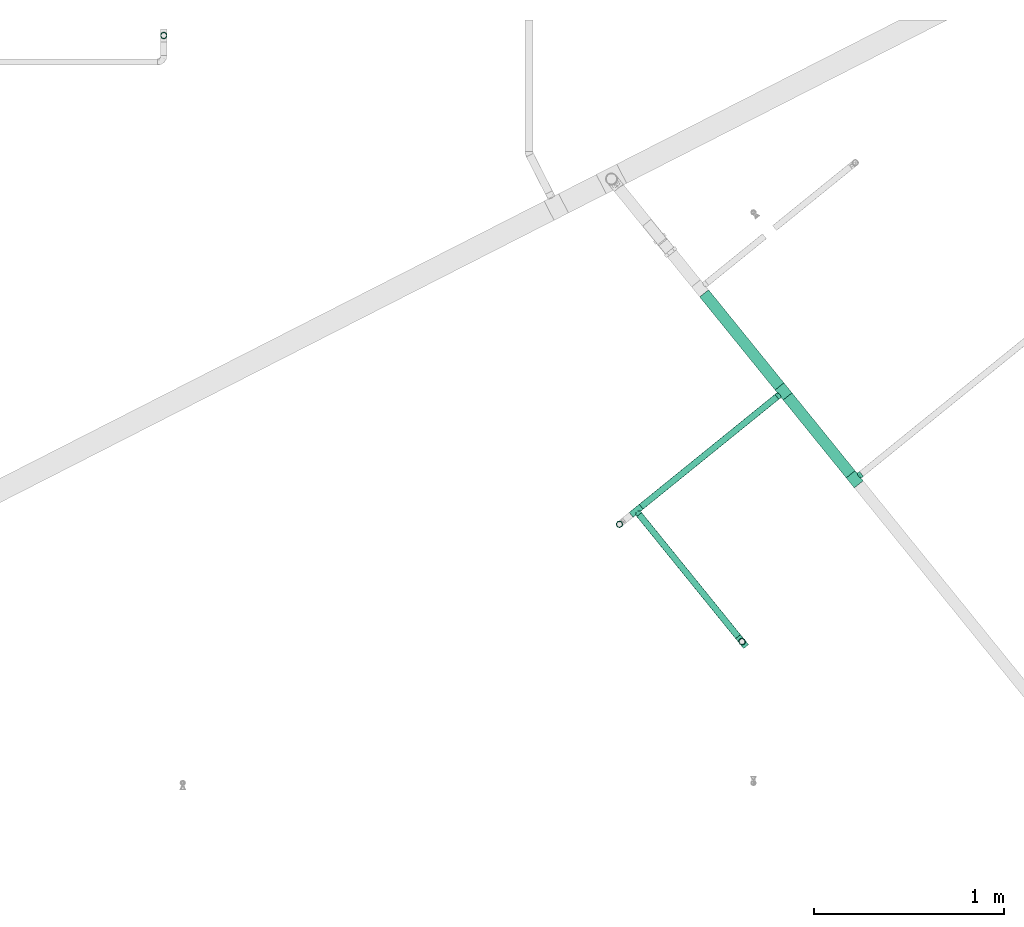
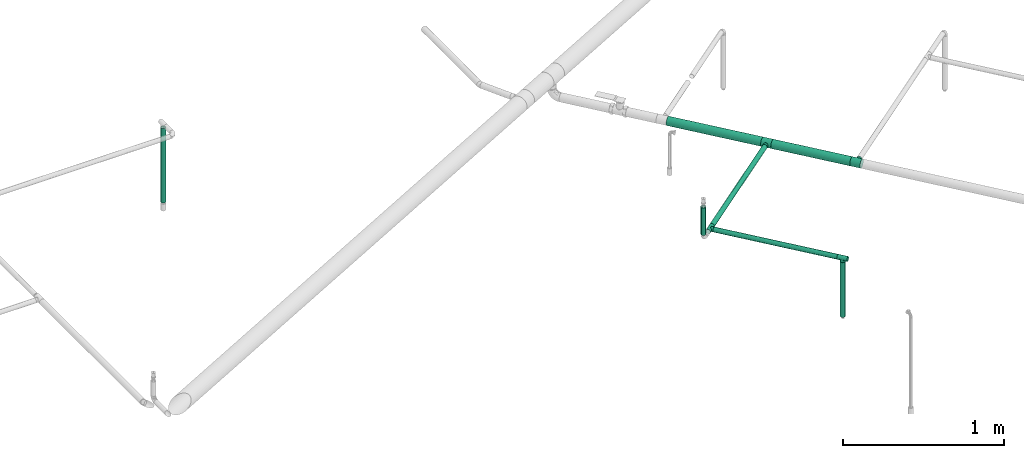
# One storey, part 18 of 94: 7 flow segments, 4 flow fittings.
"""IFC2X3 building model written with IfcOpenShell, lengths in millimetres."""

from ifc_helpers import new_model, entity, si_unit, converted_unit, derived_unit, direction, frame, origin_with_axes, origin_2d_with_axis, place, context, subcontext, project, spatial, hollow_circle, extrude, open_shell, surface_model, source, transform, mapped, type_object, element, save


model = new_model("IFC2X3")

# Units and contexts
model_context = context("Model", 3, precision=0.01, world=frame((0.0, 4.29681676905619e-09, 0.0)), true_north=direction((4.01073788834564e-13, 1.0)))
plan_context = context("Plan", 3, precision=0.01, world=frame((0.0, 4.29681676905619e-09, 0.0)), true_north=direction((4.01073788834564e-13, 1.0)))
body_context = subcontext(model_context, "Body", "Model", "MODEL_VIEW")
ifc_project = project(units=[converted_unit("PLANEANGLEUNIT", "DEGREE", entity("IfcPositiveLengthMeasure", 0.0174532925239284), si_unit("PLANEANGLEUNIT", "RADIAN"), dimensions=[0, 0, 0, 0, 0, 0, 0]), si_unit("AREAUNIT", "SQUARE_METRE"), si_unit("LENGTHUNIT", "METRE", prefix="MILLI"), si_unit("MASSUNIT", "GRAM", prefix="KILO"), si_unit("POWERUNIT", "WATT"), si_unit("PRESSUREUNIT", "PASCAL", prefix="KILO"), si_unit("FORCEUNIT", "NEWTON", prefix="KILO"), si_unit("ELECTRICVOLTAGEUNIT", "VOLT"), si_unit("ELECTRICCURRENTUNIT", "AMPERE"), si_unit("THERMODYNAMICTEMPERATUREUNIT", "DEGREE_CELSIUS"), si_unit("TIMEUNIT", "SECOND"), si_unit("VOLUMEUNIT", "CUBIC_METRE"), derived_unit("LINEARVELOCITYUNIT", [(si_unit("LENGTHUNIT", "METRE"), 1), (si_unit("TIMEUNIT", "SECOND"), -1)]), derived_unit("VOLUMETRICFLOWRATEUNIT", [(si_unit("VOLUMEUNIT", "CUBIC_METRE"), 1), (si_unit("TIMEUNIT", "SECOND"), -1)]), derived_unit("THERMALTRANSMITTANCEUNIT", [(si_unit("POWERUNIT", "WATT"), 1), (si_unit("THERMODYNAMICTEMPERATUREUNIT", "KELVIN"), -1), (si_unit("AREAUNIT", "SQUARE_METRE"), -1)]), derived_unit("SOUNDPRESSUREUNIT", [(si_unit("PRESSUREUNIT", "PASCAL"), 1)])], contexts=[model_context, plan_context])

# Site, building, storey
site_placement = place(None, frame((0.0, -4.29681676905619e-09, 0.0), z_axis=(0.0, 0.0, 1.0), x_axis=(1.0, 0.0, 0.0)))
site = spatial("IfcSite", under=ifc_project, at=site_placement, CompositionType="ELEMENT")
building_placement = place(site_placement, frame((0.0, 4.29681676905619e-09, 0.0), z_axis=(0.0, 0.0, 1.0), x_axis=(1.0, 0.0, 0.0)))
building = spatial("IfcBuilding", under=site, at=building_placement, Name="mc-building", CompositionType="ELEMENT")
storey_placement = place(building_placement, frame((0.0, 0.0, 210900.0), z_axis=(0.0, 0.0, 1.0), x_axis=(1.0, 0.0, 0.0)))
storey = spatial("IfcBuildingStorey", under=building, at=storey_placement, Name="Nivå F", CompositionType="ELEMENT", Elevation=210900.0)

# Flow fittings
pipe_fitting_type = type_object("IfcPipeFittingType", Name="magi_pipe_fe_tee_centric_90_NOR", PredefinedType="JUNCTION")
shared_shape_1 = source(origin_with_axes(), body_context, "Body", "SurfaceModel", [
    surface_model("IfcShellBasedSurfaceModel", [(-33.8, 4.37404, -16.32415), (-33.8, 0.0, -16.9), (-33.8, 16.32415, -4.37404), (-33.8, 8.45, -14.63583), (-33.8, 11.9501, -11.9501), (-33.8, 14.63583, -8.45), (-33.8, -16.9, 0.0), (-33.8, -11.9501, -11.9501), (-33.8, -14.63583, -8.45), (-33.8, -8.45, -14.63583), (-33.8, -4.37404, -16.32415), (-33.8, -16.32415, -4.37404), (-33.8, 14.63583, 8.45), (-33.8, 16.32415, 4.37404), (-33.8, -8.45, 14.63583), (-33.8, 8.45, 14.63583), (-33.8, 11.9501, 11.9501), (-33.8, 4.37404, 16.32415), (-33.8, 0.0, 16.9), (-33.8, -11.9501, 11.9501), (-33.8, -14.63583, 8.45), (-33.8, -16.32415, 4.37404), (-33.8, -4.37404, 16.32415), (-33.8, 16.9, 0.0), (33.8, 4.37404, -16.32415), (33.8, -16.9, 0.0), (33.8, 0.0, -16.9), (33.8, 14.63583, -8.45), (33.8, 8.45, -14.63583), (33.8, 16.32415, -4.37404), (33.8, 11.9501, -11.9501), (33.8, -16.32415, 4.37404), (33.8, -8.45, -14.63583), (33.8, -4.37404, -16.32415), (33.8, -11.9501, -11.9501), (33.8, -14.63583, -8.45), (33.8, -16.32415, -4.37404), (33.8, 16.32415, 4.37404), (33.8, 8.45, 14.63583), (33.8, 14.63583, 8.45), (33.8, 11.9501, 11.9501), (33.8, -8.45, 14.63583), (33.8, 4.37404, 16.32415), (33.8, -14.63583, 8.45), (33.8, -11.9501, 11.9501), (33.8, 0.0, 16.9), (33.8, -4.37404, 16.32415), (33.8, 16.9, 0.0), (16.28698, -16.28698, 4.51047), (16.9, -16.9, 0.0), (14.62704, -14.62704, 8.4652), (9.47213, -9.47213, 13.99602), (12.26343, -12.26343, 11.62834), (-16.9, -16.9, 0.0), (-16.28698, -16.28698, 4.51047), (-14.62704, -14.62704, 8.4652), (-12.26343, -12.26343, 11.62834), (-9.47213, -9.47213, 13.99602), (-6.42894, -6.42894, 15.62942), (6.42894, -6.42894, 15.62942), (3.24522, -3.24522, 16.58549), (0.0, 0.0, 16.9), (-3.24522, -3.24522, 16.58549), (3.24522, -3.24522, -16.58549), (0.0, 0.0, -16.9), (-3.24522, -3.24522, -16.58549), (-6.42894, -6.42894, -15.62942), (6.42894, -6.42894, -15.62942), (9.47213, -9.47213, -13.99602), (12.26343, -12.26343, -11.62834), (14.62704, -14.62704, -8.4652), (16.28698, -16.28698, -4.51047), (-9.47213, -9.47213, -13.99602), (-12.26343, -12.26343, -11.62834), (-16.28698, -16.28698, -4.51047), (-14.62704, -14.62704, -8.4652), (4.37404, -25.35, -16.32415), (-16.9, -25.35, 0.0), (0.0, -25.35, -16.9), (14.63583, -25.35, -8.45), (8.45, -25.35, -14.63583), (16.32415, -25.35, -4.37404), (11.9501, -25.35, -11.9501), (-11.9501, -25.35, -11.9501), (-8.45, -25.35, -14.63583), (-4.37404, -25.35, -16.32415), (-14.63583, -25.35, -8.45), (-16.32415, -25.35, -4.37404), (16.9, -25.35, 0.0), (8.45, -25.35, 14.63583), (16.32415, -25.35, 4.37404), (14.63583, -25.35, 8.45), (-8.45, -25.35, 14.63583), (11.9501, -25.35, 11.9501), (4.37404, -25.35, 16.32415), (-16.32415, -25.35, 4.37404), (-11.9501, -25.35, 11.9501), (-14.63583, -25.35, 8.45), (0.0, -25.35, 16.9), (-4.37404, -25.35, 16.32415)], [open_shell([[[0, 1, 2]], [[3, 0, 4]], [[0, 2, 5]], [[4, 0, 5]], [[6, 2, 1]], [[7, 8, 9]], [[1, 10, 9]], [[11, 6, 8]], [[1, 9, 8]], [[1, 8, 6]], [[6, 12, 2]], [[12, 13, 2]], [[14, 12, 6]], [[12, 14, 15]], [[16, 12, 15]], [[17, 15, 18]], [[19, 14, 20]], [[21, 20, 14]], [[22, 18, 14]], [[14, 6, 21]], [[14, 18, 15]], [[23, 2, 13]], [[24, 25, 26]], [[27, 24, 28]], [[27, 29, 24]], [[27, 28, 30]], [[31, 25, 24]], [[26, 32, 33]], [[26, 34, 32]], [[35, 25, 36]], [[35, 34, 26]], [[25, 35, 26]], [[24, 29, 31]], [[29, 37, 38]], [[38, 37, 39]], [[38, 31, 29]], [[38, 39, 40]], [[41, 38, 42]], [[43, 41, 44]], [[41, 43, 31]], [[41, 45, 46]], [[41, 31, 38]], [[42, 45, 41]], [[29, 47, 37]], [[31, 43, 48]], [[25, 31, 49]], [[49, 31, 48]], [[43, 50, 48]], [[44, 41, 51]], [[50, 43, 52]], [[51, 52, 44]], [[52, 43, 44]], [[53, 54, 21]], [[53, 21, 6]], [[21, 54, 20]], [[54, 55, 20]], [[56, 57, 19]], [[19, 20, 56]], [[19, 57, 14]], [[56, 20, 55]], [[14, 57, 58]], [[51, 41, 59]], [[60, 45, 61]], [[59, 46, 60]], [[46, 59, 41]], [[60, 46, 45]], [[61, 45, 42]], [[39, 37, 13]], [[16, 38, 40]], [[12, 40, 39]], [[42, 38, 15]], [[23, 37, 47]], [[62, 61, 18]], [[62, 22, 58]], [[22, 62, 18]], [[58, 22, 14]], [[61, 17, 18]], [[42, 17, 61]], [[15, 17, 42]], [[15, 38, 16]], [[12, 16, 40]], [[13, 12, 39]], [[37, 23, 13]], [[5, 27, 30]], [[23, 47, 29]], [[30, 28, 3]], [[27, 2, 29]], [[26, 33, 63]], [[26, 64, 24]], [[64, 26, 63]], [[28, 24, 0]], [[64, 0, 24]], [[4, 30, 3]], [[2, 27, 5]], [[5, 30, 4]], [[2, 23, 29]], [[65, 66, 10]], [[1, 0, 64]], [[1, 65, 10]], [[66, 9, 10]], [[0, 3, 28]], [[1, 64, 65]], [[63, 33, 67]], [[32, 34, 68]], [[69, 68, 34]], [[35, 70, 69]], [[69, 34, 35]], [[32, 68, 67]], [[36, 25, 49]], [[36, 71, 35]], [[71, 36, 49]], [[35, 71, 70]], [[72, 9, 66]], [[72, 7, 9]], [[7, 72, 73]], [[7, 73, 8]], [[74, 53, 11]], [[75, 74, 8]], [[74, 11, 8]], [[11, 53, 6]], [[75, 8, 73]], [[32, 67, 33]], [[76, 77, 78]], [[79, 76, 80]], [[79, 81, 76]], [[79, 80, 82]], [[77, 76, 81]], [[78, 83, 84]], [[84, 85, 78]], [[86, 77, 87]], [[83, 78, 86]], [[77, 86, 78]], [[81, 88, 77]], [[89, 88, 90]], [[89, 90, 91]], [[92, 77, 89]], [[89, 91, 93]], [[92, 89, 94]], [[95, 96, 97]], [[96, 95, 92]], [[92, 98, 99]], [[95, 77, 92]], [[94, 98, 92]], [[89, 77, 88]], [[77, 95, 53]], [[54, 53, 95]], [[97, 96, 56]], [[96, 92, 57]], [[95, 97, 54]], [[58, 92, 99]], [[55, 54, 97]], [[56, 55, 97]], [[58, 57, 92]], [[98, 61, 62]], [[58, 99, 62]], [[56, 96, 57]], [[62, 99, 98]], [[94, 60, 98]], [[89, 59, 94]], [[91, 90, 48]], [[52, 93, 91]], [[93, 51, 89]], [[49, 90, 88]], [[59, 60, 94]], [[51, 59, 89]], [[49, 48, 90]], [[50, 52, 91]], [[48, 50, 91]], [[51, 93, 52]], [[98, 60, 61]], [[88, 81, 49]], [[71, 49, 81]], [[79, 82, 69]], [[82, 80, 68]], [[81, 79, 71]], [[67, 80, 76]], [[70, 71, 79]], [[69, 70, 79]], [[67, 68, 80]], [[78, 64, 63]], [[67, 76, 63]], [[69, 82, 68]], [[63, 76, 78]], [[85, 65, 78]], [[84, 66, 85]], [[86, 87, 74]], [[86, 73, 83]], [[72, 84, 83]], [[53, 87, 77]], [[66, 65, 85]], [[72, 66, 84]], [[53, 74, 87]], [[75, 73, 86]], [[74, 75, 86]], [[72, 83, 73]], [[78, 65, 64]]])]),
])
for number, where, z_axis, x_axis, name in (
    (1, (724383.54109, 443631.34867, 3500.0), (0.0, 0.0, 1.0), (0.777146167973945, 0.629320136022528, 0.0), "magi_pipe_fe_tee_centric_90_NOR"),
    (2, (724940.47836, 442943.58842, 3500.0), (-0.777146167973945, -0.629320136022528, 0.0), (0.629320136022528, -0.777146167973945, 0.0), "magi_pipe_fe_tee_centric_90_NOR"),
):
    element("IfcFlowFitting", number, at=place(storey_placement, frame(where, z_axis=z_axis, x_axis=x_axis)), inside=storey, type_object=pipe_fitting_type, Name=name, context=body_context, shape_type="MappedRepresentation", body=[
        mapped(shared_shape_1, transform((0.0, 0.0, 0.0), scale=1.0)),
    ])
shared_shape_2 = source(origin_with_axes(), body_context, "Body", "SurfaceModel", [
    surface_model("IfcShellBasedSurfaceModel", [(-33.8, 15.1, -26.15397), (-33.8, 7.81634, -29.17096), (-33.8, 0.0, -30.2), (-33.8, 29.17096, -7.81634), (-33.8, 26.15397, -15.1), (-33.8, 21.35462, -21.35462), (-33.8, 30.2, 0.0), (-33.8, -30.2, 0.0), (-33.8, -15.1, -26.15397), (-33.8, -21.35462, -21.35462), (-33.8, -7.81634, -29.17096), (-33.8, -26.15397, -15.1), (-33.8, -29.17096, -7.81634), (-33.8, 26.15397, 15.1), (-33.8, 29.17096, 7.81634), (-33.8, 15.1, 26.15397), (-33.8, -21.35462, 21.35462), (-33.8, 21.35462, 21.35462), (-33.8, 7.81634, 29.17096), (-33.8, -29.17096, 7.81634), (-33.8, -26.15397, 15.1), (-33.8, -7.81634, 29.17096), (-33.8, 0.0, 30.2), (-33.8, -15.1, 26.15397), (33.8, 29.17096, -7.81634), (33.8, 0.0, -30.2), (33.8, 7.81634, -29.17096), (33.8, 21.35462, -21.35462), (33.8, 15.1, -26.15397), (33.8, 26.15397, -15.1), (33.8, -30.2, 0.0), (33.8, -7.81634, -29.17096), (33.8, -21.35462, -21.35462), (33.8, -15.1, -26.15397), (33.8, -29.17096, -7.81634), (33.8, -26.15397, -15.1), (33.8, 30.2, 0.0), (33.8, 29.17096, 7.81634), (33.8, 26.15397, 15.1), (33.8, -29.17096, 7.81634), (33.8, 15.1, 26.15397), (33.8, 7.81634, 29.17096), (33.8, 21.35462, 21.35462), (33.8, -21.35462, 21.35462), (33.8, -26.15397, 15.1), (33.8, -15.1, 26.15397), (33.8, 0.0, 30.2), (33.8, -7.81634, 29.17096), (33.8, -29.68548, 3.90817), (15.846, -29.62306, 5.87488), (16.373, -29.91153, 2.93744), (12.91037, -28.16217, 10.90561), (2.99213, -25.2068, 16.63301), (16.9, -30.2, 0.0), (33.8, -27.66246, 11.45817), (8.50854, -26.43531, 14.60187), (-8.51006, -26.43579, 14.60099), (-33.8, -27.66246, 11.45817), (-12.91447, -28.16405, 10.90075), (-15.84655, -29.62335, 5.87341), (-33.8, -29.68548, 3.90817), (-16.37327, -29.91168, 2.93671), (-16.9, -30.2, 0.0), (-2.99705, -25.20739, 16.63213), (2.99213, -25.2068, -16.63301), (-16.37327, -29.91168, -2.93671), (8.50854, -26.43531, -14.60187), (33.8, -27.66246, -11.45817), (16.373, -29.91153, -2.93744), (-33.8, -29.68548, -3.90817), (-15.84655, -29.62335, -5.87341), (15.846, -29.62306, -5.87488), (12.91037, -28.16217, -10.90561), (33.8, -29.68548, -3.90817), (-2.99705, -25.20739, -16.63213), (-8.51006, -26.43579, -14.60099), (-12.91447, -28.16405, -10.90075), (-33.8, -27.66246, -11.45817), (4.37404, -45.3, -16.32415), (-16.9, -45.3, 0.0), (0.0, -45.3, -16.9), (14.63583, -45.3, -8.45), (8.45, -45.3, -14.63583), (16.32415, -45.3, -4.37404), (11.9501, -45.3, -11.9501), (-11.9501, -45.3, -11.9501), (-8.45, -45.3, -14.63583), (-4.37404, -45.3, -16.32415), (-14.63583, -45.3, -8.45), (-16.32415, -45.3, -4.37404), (16.9, -45.3, 0.0), (8.45, -45.3, 14.63583), (16.32415, -45.3, 4.37404), (14.63583, -45.3, 8.45), (-8.45, -45.3, 14.63583), (11.9501, -45.3, 11.9501), (4.37404, -45.3, 16.32415), (-16.32415, -45.3, 4.37404), (-11.9501, -45.3, 11.9501), (-14.63583, -45.3, 8.45), (0.0, -45.3, 16.9), (-4.37404, -45.3, 16.32415), (-5.75355, -25.82159, 15.61656), (-0.00246, -25.20709, 16.63257), (5.75034, -25.82105, 15.61744), (5.75034, -25.82105, -15.61744), (-0.00246, -25.20709, -16.63257), (-5.75355, -25.82159, -15.61656)], [open_shell([[[0, 1, 2]], [[3, 0, 2]], [[0, 3, 4]], [[5, 0, 4]], [[6, 2, 7]], [[8, 9, 10]], [[9, 2, 10]], [[11, 12, 9]], [[7, 9, 12]], [[9, 7, 2]], [[6, 3, 2]], [[13, 14, 6]], [[7, 15, 13]], [[7, 16, 15]], [[17, 13, 15]], [[18, 15, 16]], [[19, 20, 7]], [[7, 20, 16]], [[21, 22, 23]], [[16, 23, 22]], [[16, 22, 18]], [[7, 13, 6]], [[24, 25, 26]], [[27, 26, 28]], [[29, 24, 26]], [[29, 26, 27]], [[25, 24, 30]], [[31, 32, 33]], [[32, 31, 34]], [[32, 34, 35]], [[34, 31, 30]], [[31, 25, 30]], [[24, 36, 30]], [[36, 37, 38]], [[39, 36, 38]], [[40, 41, 38]], [[40, 38, 42]], [[43, 38, 41]], [[39, 43, 44]], [[39, 38, 43]], [[45, 46, 47]], [[46, 45, 43]], [[41, 46, 43]], [[36, 39, 30]], [[48, 39, 49]], [[30, 48, 50]], [[39, 51, 49]], [[44, 43, 52]], [[30, 50, 53]], [[51, 54, 55]], [[52, 55, 44]], [[48, 49, 50]], [[43, 16, 52]], [[55, 54, 44]], [[56, 57, 58]], [[59, 60, 61]], [[62, 61, 7]], [[59, 58, 19]], [[56, 63, 20]], [[51, 39, 54]], [[20, 57, 56]], [[20, 63, 16]], [[58, 57, 19]], [[63, 52, 16]], [[7, 61, 60]], [[59, 19, 60]], [[43, 23, 16]], [[22, 47, 46]], [[21, 45, 47]], [[18, 46, 41]], [[38, 37, 14]], [[17, 40, 42]], [[13, 42, 38]], [[41, 40, 15]], [[6, 37, 36]], [[23, 45, 21]], [[21, 47, 22]], [[18, 22, 46]], [[41, 15, 18]], [[15, 40, 17]], [[13, 17, 42]], [[14, 13, 38]], [[37, 6, 14]], [[45, 23, 43]], [[4, 24, 29]], [[3, 36, 24]], [[5, 29, 27]], [[25, 31, 10]], [[1, 28, 26]], [[2, 26, 25]], [[27, 28, 0]], [[8, 31, 33]], [[6, 36, 3]], [[3, 24, 4]], [[5, 4, 29]], [[27, 0, 5]], [[0, 28, 1]], [[2, 1, 26]], [[10, 2, 25]], [[31, 8, 10]], [[33, 9, 8]], [[32, 35, 64]], [[7, 65, 62]], [[66, 64, 35]], [[67, 66, 35]], [[32, 64, 9]], [[53, 68, 30]], [[69, 70, 65]], [[71, 72, 34]], [[71, 73, 68]], [[66, 67, 72]], [[34, 72, 67]], [[74, 75, 11]], [[76, 12, 77]], [[11, 9, 74]], [[76, 77, 75]], [[74, 9, 64]], [[76, 70, 12]], [[71, 34, 73]], [[70, 69, 12]], [[65, 7, 69]], [[30, 68, 73]], [[77, 11, 75]], [[32, 9, 33]], [[78, 79, 80]], [[81, 78, 82]], [[81, 83, 78]], [[81, 82, 84]], [[79, 78, 83]], [[80, 85, 86]], [[86, 87, 80]], [[88, 79, 89]], [[85, 80, 88]], [[79, 88, 80]], [[83, 90, 79]], [[91, 90, 92]], [[91, 92, 93]], [[94, 79, 91]], [[91, 93, 95]], [[94, 91, 96]], [[97, 98, 99]], [[98, 97, 94]], [[94, 100, 101]], [[97, 79, 94]], [[96, 100, 94]], [[91, 79, 90]], [[97, 61, 79]], [[58, 99, 98]], [[97, 99, 59]], [[98, 94, 56]], [[61, 62, 79]], [[59, 99, 58]], [[101, 63, 102]], [[56, 58, 98]], [[100, 52, 103]], [[91, 104, 96]], [[100, 96, 52]], [[50, 49, 92]], [[50, 90, 53]], [[104, 91, 55]], [[102, 94, 101]], [[102, 56, 94]], [[100, 63, 101]], [[97, 59, 61]], [[55, 91, 95]], [[95, 51, 55]], [[52, 96, 104]], [[92, 49, 93]], [[90, 50, 92]], [[93, 49, 51]], [[93, 51, 95]], [[103, 63, 100]], [[83, 68, 90]], [[72, 81, 84]], [[83, 81, 71]], [[84, 82, 66]], [[68, 53, 90]], [[71, 81, 72]], [[78, 64, 105]], [[66, 72, 84]], [[80, 74, 106]], [[86, 107, 87]], [[65, 70, 89]], [[105, 82, 78]], [[105, 66, 82]], [[75, 86, 85]], [[83, 71, 68]], [[70, 88, 89]], [[65, 79, 62]], [[85, 88, 76]], [[80, 64, 78]], [[87, 107, 74]], [[74, 80, 87]], [[75, 107, 86]], [[75, 85, 76]], [[76, 88, 70]], [[79, 65, 89]], [[106, 64, 80]]])]),
])
for number, where, z_axis, x_axis, name in (
    (3, (725532.42552, 443796.87082, 3500.0), (0.0, 0.0, 1.0), (-0.629320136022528, 0.777146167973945, 0.0), "magi_pipe_fe_tee_centric_90_NOR"),
    (4, (725158.3691, 444258.79202, 3500.0), (0.0, 0.0, -1.0), (-0.629320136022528, 0.777146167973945, 0.0), "magi_pipe_fe_tee_centric_90_NOR"),
):
    element("IfcFlowFitting", number, at=place(storey_placement, frame(where, z_axis=z_axis, x_axis=x_axis)), inside=storey, type_object=pipe_fitting_type, Name=name, context=body_context, shape_type="MappedRepresentation", body=[
        mapped(shared_shape_2, transform((0.0, 0.0, 0.0), scale=1.0)),
    ])

# Flow segments
pipe_segment_type = type_object("IfcPipeSegmentType", Name="Stålrør normaltykke", PredefinedType="RIGIDSEGMENT")
shared_shape_3 = source(origin_with_axes(), body_context, "Body", "SweptSolid", [
    extrude(hollow_circle(Radius=30.1, WallThickness=2.0, at=origin_2d_with_axis()), frame((0.0, 0.0, 0.0), z_axis=(1.0, 0.0, 0.0), x_axis=(0.0, 1.0, 0.0)), (0.0, 0.0, 1.0), 526.8),
])
flow_segment_1_placement = place(storey_placement, frame((725179.64013, 444232.52449, 3500.0), z_axis=(0.0, 0.0, 1.0), x_axis=(0.629320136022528, -0.777146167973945, 0.0)))
element("IfcFlowSegment", 5, at=flow_segment_1_placement, inside=storey, type_object=pipe_segment_type, Name="Stålrør normaltykke", context=body_context, shape_type="MappedRepresentation", body=[
    mapped(shared_shape_3, transform((0.0, 0.0, 0.0), scale=1.0)),
])
shared_shape_4 = source(origin_with_axes(), body_context, "Body", "SweptSolid", [
    extrude(hollow_circle(Radius=30.1, WallThickness=2.0, at=origin_2d_with_axis()), frame((0.0, 0.0, 0.0), z_axis=(1.0, 0.0, 0.0), x_axis=(0.0, 1.0, 0.0)), (0.0, 0.0, 1.0), 629.5),
])
flow_segment_2_placement = place(storey_placement, frame((724740.92129, 444774.29714, 3500.0), z_axis=(0.0, 0.0, 1.0), x_axis=(0.629320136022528, -0.777146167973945, 0.0)))
element("IfcFlowSegment", 6, at=flow_segment_2_placement, inside=storey, type_object=pipe_segment_type, Name="Stålrør normaltykke", context=body_context, shape_type="MappedRepresentation", body=[
    mapped(shared_shape_4, transform((0.0, 0.0, 0.0), scale=1.0)),
])
shared_shape_5 = source(origin_with_axes(), body_context, "Body", "SweptSolid", [
    extrude(hollow_circle(Radius=16.9, WallThickness=2.0, at=origin_2d_with_axis()), frame((0.0, 0.0, 0.0), z_axis=(1.0, 0.0, 0.0), x_axis=(0.0, 1.0, 0.0)), (0.0, 0.0, 1.0), 825.8),
])
flow_segment_3_placement = place(storey_placement, frame((724399.49436, 443611.64802, 3500.0), z_axis=(0.0, 0.0, 1.0), x_axis=(0.629320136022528, -0.777146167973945, 0.0)))
element("IfcFlowSegment", 7, at=flow_segment_3_placement, inside=storey, type_object=pipe_segment_type, Name="Stålrør normaltykke", context=body_context, shape_type="MappedRepresentation", body=[
    mapped(shared_shape_5, transform((0.0, 0.0, 0.0), scale=1.0)),
])
shared_shape_6 = source(origin_with_axes(), body_context, "Body", "SweptSolid", [
    extrude(hollow_circle(Radius=16.9, WallThickness=2.0, at=origin_2d_with_axis()), frame((0.0, 0.0, 0.0), z_axis=(1.0, 0.0, 0.0), x_axis=(0.0, 1.0, 0.0)), (0.0, 0.0, 1.0), 917.9),
])
flow_segment_4_placement = place(storey_placement, frame((725123.16439, 444230.28381, 3500.0), z_axis=(0.0, 0.0, 1.0), x_axis=(-0.777146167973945, -0.629320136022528, 0.0)))
element("IfcFlowSegment", 8, at=flow_segment_4_placement, inside=storey, type_object=pipe_segment_type, Name="Stålrør normaltykke", context=body_context, shape_type="MappedRepresentation", body=[
    mapped(shared_shape_6, transform((0.0, 0.0, 0.0), scale=1.0)),
])
shared_shape_7 = source(origin_with_axes(), body_context, "Body", "SweptSolid", [
    extrude(hollow_circle(Radius=16.9, WallThickness=2.0, at=origin_2d_with_axis()), frame((0.0, 0.0, 0.0), z_axis=(1.0, 0.0, 0.0), x_axis=(0.0, 1.0, 0.0)), (0.0, 0.0, 1.0), 208.8),
])
flow_segment_5_placement = place(storey_placement, frame((724295.62051, 443560.15199, 3742.64799999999), z_axis=(-1.0, 0.0, 0.0), x_axis=(0.0, 0.0, -1.0)))
element("IfcFlowSegment", 9, at=flow_segment_5_placement, inside=storey, type_object=pipe_segment_type, Name="Stålrør normaltykke", context=body_context, shape_type="MappedRepresentation", body=[
    mapped(shared_shape_7, transform((0.0, 0.0, 0.0), scale=1.0)),
])
shared_shape_8 = source(origin_with_axes(), body_context, "Body", "SweptSolid", [
    extrude(hollow_circle(Radius=16.9, WallThickness=2.0, at=origin_2d_with_axis()), frame((0.0, 0.0, 0.0), z_axis=(1.0, 0.0, 0.0), x_axis=(0.0, 1.0, 0.0)), (0.0, 0.0, 1.0), 415.3),
])
flow_segment_6_placement = place(storey_placement, frame((724940.47836, 442943.58842, 3474.64999999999), z_axis=(-0.000893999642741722, -0.99999960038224, 0.0), x_axis=(0.0, 0.0, -1.0)))
element("IfcFlowSegment", 10, at=flow_segment_6_placement, inside=storey, type_object=pipe_segment_type, Name="Stålrør normaltykke", context=body_context, shape_type="MappedRepresentation", body=[
    mapped(shared_shape_8, transform((0.0, 0.0, 0.0), scale=1.0)),
])
shared_shape_9 = source(origin_with_axes(), body_context, "Body", "SweptSolid", [
    extrude(hollow_circle(Radius=16.9, WallThickness=2.0, at=origin_2d_with_axis()), frame((0.0, 0.0, 0.0), z_axis=(1.0, 0.0, 0.0), x_axis=(0.0, 1.0, 0.0)), (0.0, 0.0, 1.0), 565.3),
])
flow_segment_7_placement = place(storey_placement, frame((721900.18546, 446130.2735, 3624.64999999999), z_axis=(1.0, 0.0, 0.0), x_axis=(0.0, 0.0, -1.0)))
element("IfcFlowSegment", 11, at=flow_segment_7_placement, inside=storey, type_object=pipe_segment_type, Name="Stålrør normaltykke", context=body_context, shape_type="MappedRepresentation", body=[
    mapped(shared_shape_9, transform((0.0, 0.0, 0.0), scale=1.0)),
])

save(model, "model.ifc")
